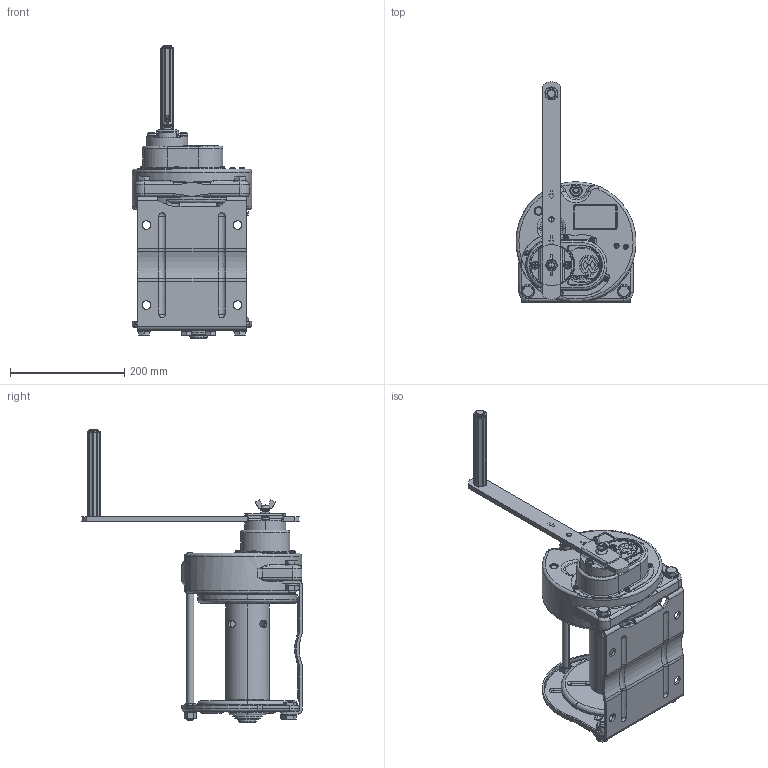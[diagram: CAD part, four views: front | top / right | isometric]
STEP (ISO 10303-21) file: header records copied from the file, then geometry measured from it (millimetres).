
FILE_DESCRIPTION( (''), '2;1');
FILE_NAME ('GM-10-LUSI.stp','2023-12-22T13:53:44',(''),(''),'spGate 19.8.2 (****-****-****-****)','','');
FILE_SCHEMA (('AUTOMOTIVE_DESIGN'));
Length unit declared in the file: millimetre
Products named in the file (3): Assembly; GM-10-LUSI-prt0; GM-10-LUSI-prt1
Assembly tree (2 placements, depth 2):
  Assembly
    GM-10-LUSI-prt0
    GM-10-LUSI-prt1
Bounding box: 209.96 x 385.43 x 513.1 mm (x, y, z)
Volume: 3948317.1 mm3; surface area: 681707.7 mm2
Topology: 2 solids, 2 shells, 2522 faces, 6449 edges, 4029 vertices
Faces by surface type: plane 1214, cylinder 790, bspline 456, sphere 62
Entity records: 137894 total; most frequent: CARTESIAN_POINT 26918, ORIENTED_EDGE 12802, DIRECTION 12287, COLOUR_RGB 8925, PRESENTATION_STYLE_ASSIGNMENT 8925, STYLED_ITEM 8925, EDGE_CURVE 6401, DRAUGHTING_PRE_DEFINED_CURVE_FONT 6401
